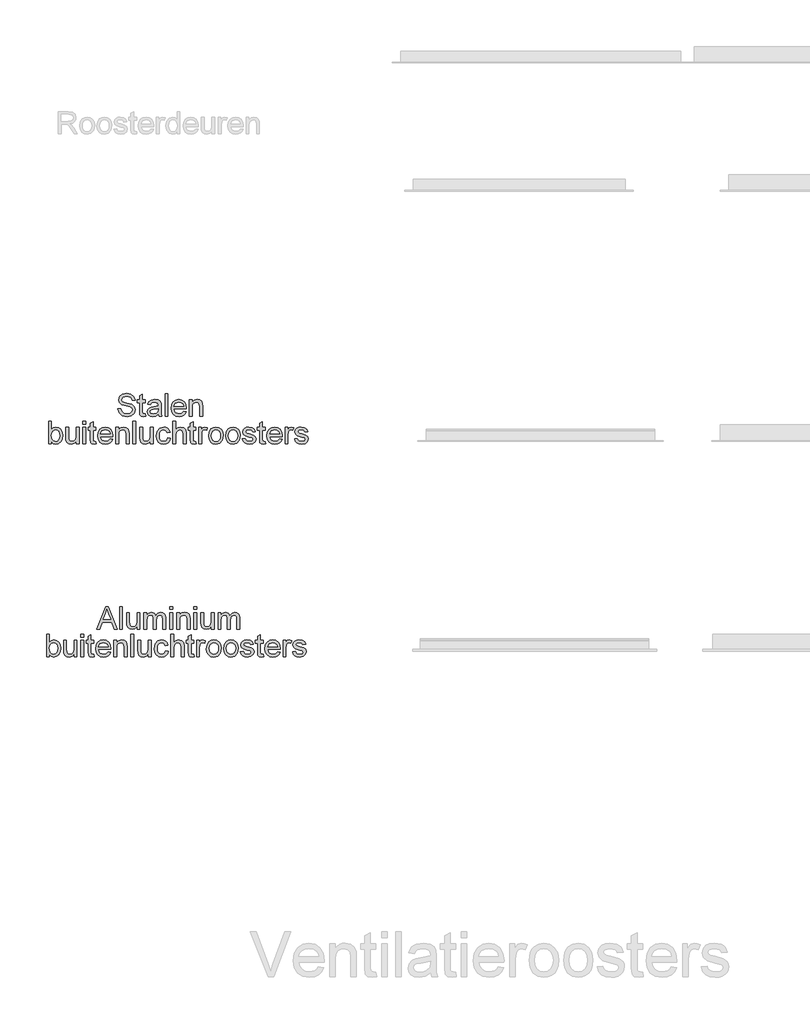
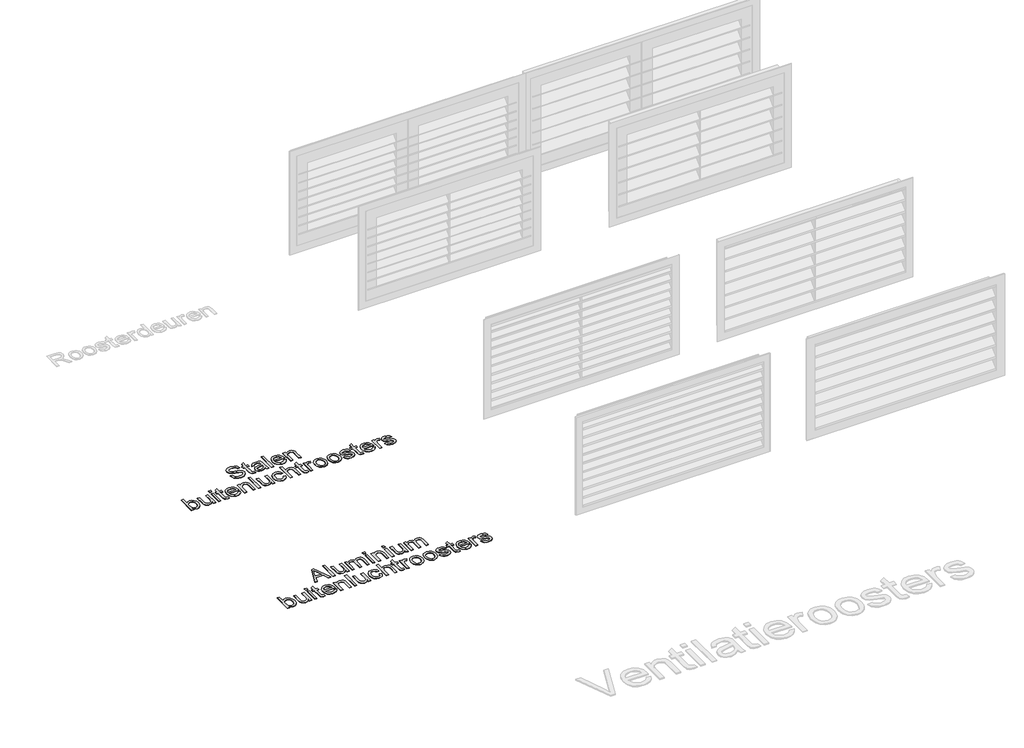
# One storey, part 2 of 10: 2 proxies.
"""IFC4 building model written with IfcOpenShell, lengths in millimetres."""

import ifcopenshell
import ifcopenshell.guid

model = None  # the IFC model being written
_history = None  # IfcOwnerHistory: only IFC2X3 demands one
_inside = {}  # id of a spatial element -> (the spatial element, [elements in it])
_under = {}  # id of a project, library or spatial element -> (it, [spatial elements below it])
_declared = {}  # id of a project -> (the project, [libraries it declares])
_typed = {}  # id of a type object -> (the type object, [elements of that type])
_made_of = {}  # id of a material, layer set ... -> (it, [elements and type objects made of it])


def new_model(schema):
    """Start an empty IFC model of exactly this schema.

    Asked for "IFC4X3", IfcOpenShell would pick the latest addendum, in which some entities
    have other attributes; the version numbers below select the first issue.
    IFC2X3 requires an IfcOwnerHistory on every rooted entity: one is made here for all.
    """
    global model, _history
    if schema == "IFC4X3":
        model = ifcopenshell.file(schema_version=(4, 3, 0, 0))
    else:
        model = ifcopenshell.file(schema=schema)
    _inside.clear()
    _under.clear()
    _declared.clear()
    _typed.clear()
    _made_of.clear()
    _history = None
    if model.schema == "IFC2X3":
        org = make("IfcOrganization", Name="unknown")
        user = make(
            "IfcPersonAndOrganization",
            ThePerson=make("IfcPerson", FamilyName="unknown"),
            TheOrganization=org,
        )
        app = make(
            "IfcApplication",
            ApplicationDeveloper=org,
            Version="unknown",
            ApplicationFullName="unknown",
            ApplicationIdentifier="unknown",
        )
        _history = make(
            "IfcOwnerHistory",
            OwningUser=user,
            OwningApplication=app,
            ChangeAction="ADDED",
            CreationDate=0,
        )
    return model


def make(cls, **values):
    """One entity of the class cls with the attributes given. An attribute that is None is left unset."""
    return model.create_entity(
        cls, **{name: value for name, value in values.items() if value is not None}
    )


def rooted(cls, **values):
    """An entity with a GlobalId (a new one), such as an element, a storey or a relation."""
    return make(cls, GlobalId=ifcopenshell.guid.new(), OwnerHistory=_history, **values)


def si_unit(unit_type, name, prefix=None):
    """IfcSIUnit, for example si_unit("LENGTHUNIT", "METRE", prefix="MILLI")."""
    return make("IfcSIUnit", UnitType=unit_type, Prefix=prefix, Name=name)


def assignment(units):
    """IfcUnitAssignment: the units of a project."""
    return None if units is None else make("IfcUnitAssignment", Units=units)


def point(xyz):
    """IfcCartesianPoint."""
    return None if xyz is None else make("IfcCartesianPoint", Coordinates=xyz)


def direction(xyz):
    """IfcDirection."""
    return None if xyz is None else make("IfcDirection", DirectionRatios=xyz)


def frame(location, z_axis=None, x_axis=None):
    """IfcAxis2Placement3D, a coordinate frame: its origin and axes. An axis left out is left unset."""
    return make(
        "IfcAxis2Placement3D",
        Location=point(location),
        Axis=direction(z_axis),
        RefDirection=direction(x_axis),
    )


def origin():
    """The frame at (0, 0, 0) with its axes left unset."""
    return frame((0.0, 0.0, 0.0))


def origin_with_axes():
    """The frame at (0, 0, 0) with the z axis (0, 0, 1) and the x axis (1, 0, 0) written out."""
    return frame((0.0, 0.0, 0.0), z_axis=(0.0, 0.0, 1.0), x_axis=(1.0, 0.0, 0.0))


def place(relative_to, where):
    """IfcLocalPlacement: puts the frame where relative to a parent placement (None: the world)."""
    return make(
        "IfcLocalPlacement", PlacementRelTo=relative_to, RelativePlacement=where
    )


def context(
    kind, dimensions, precision=None, world=None, true_north=None, identifier=None
):
    """IfcGeometricRepresentationContext, for example the 3D "Model" context."""
    return make(
        "IfcGeometricRepresentationContext",
        ContextIdentifier=identifier,
        ContextType=kind,
        CoordinateSpaceDimension=dimensions,
        Precision=precision,
        WorldCoordinateSystem=world,
        TrueNorth=true_north,
    )


def project(units=None, contexts=None):
    """IfcProject with its units and contexts."""
    return rooted(
        "IfcProject",
        Name="project",
        RepresentationContexts=contexts,
        UnitsInContext=assignment(units),
    )


def spatial(cls, under=None, at=None, **own):
    """A site, building, storey or space (cls), placed at a placement, below another one or the project."""
    s = rooted(cls, ObjectPlacement=at, **own)
    if under is not None:
        _under.setdefault(under.id(), (under, []))[1].append(s)
    return s


def polyline(points):
    """IfcPolyline through the points."""
    return make("IfcPolyline", Points=[point(p) for p in points])


def outline(outer, holes=None, kind="AREA"):
    """IfcArbitraryClosedProfileDef: a profile drawn as a closed curve; with holes, ...WithVoids."""
    if holes is None:
        return make("IfcArbitraryClosedProfileDef", ProfileType=kind, OuterCurve=outer)
    return make(
        "IfcArbitraryProfileDefWithVoids",
        ProfileType=kind,
        OuterCurve=outer,
        InnerCurves=holes,
    )


def extrude(swept, where, along, depth):
    """IfcExtrudedAreaSolid: the profile swept, set in the frame where, extruded along a direction by depth."""
    return make(
        "IfcExtrudedAreaSolid",
        SweptArea=swept,
        Position=where,
        ExtrudedDirection=direction(along),
        Depth=depth,
    )


def shape(context_of_items, identifier, shape_type, items):
    """IfcShapeRepresentation: the items that make up one representation, for example the "Body"."""
    return make(
        "IfcShapeRepresentation",
        ContextOfItems=context_of_items,
        RepresentationIdentifier=identifier,
        RepresentationType=shape_type,
        Items=items,
    )


def made_of(thing, what):
    """Note that an element or type object is made of a material, layer set ...; save() writes the relation."""
    if what is not None:
        _made_of.setdefault(what.id(), (what, []))[1].append(thing)
    return thing


def element(
    cls,
    number,
    at=None,
    inside=None,
    cuts=None,
    type_object=None,
    material=None,
    context=None,
    identifier="Body",
    shape_type=None,
    held_by="IfcProductDefinitionShape",
    body=None,
    shapes=None,
    **own,
):
    """One element of the class cls, such as IfcWall. Its Tag is "e" and its number.

    at: its placement. inside: the storey or other place that contains it. cuts: it is an
    opening in that element (IfcRelVoidsElement). A single representation is given by context,
    identifier, shape_type and body (its items); several are given by shapes. held_by: the class
    of the entity that holds the representations. save() writes the other relations.
    """
    e = rooted(cls, Tag="e%d" % number, ObjectPlacement=at, **own)
    if body is not None:
        shapes = [shape(context, identifier, shape_type, body)]
    if shapes is not None:
        e.Representation = make(held_by, Representations=shapes)
    if inside is not None:
        _inside.setdefault(inside.id(), (inside, []))[1].append(e)
    if cuts is not None:
        rooted(
            "IfcRelVoidsElement", RelatingBuildingElement=cuts, RelatedOpeningElement=e
        )
    if type_object is not None:
        _typed.setdefault(type_object.id(), (type_object, []))[1].append(e)
    return made_of(e, material)


def aggregate(whole, parts):
    """IfcRelAggregates: a whole, such as a stair, and the parts it consists of."""
    return rooted("IfcRelAggregates", RelatingObject=whole, RelatedObjects=parts)


def save(model, path):
    """Write the relations noted so far, then the file.

    IfcRelAggregates (storeys below a building ...), IfcRelContainedInSpatialStructure (elements
    in a storey), IfcRelDefinesByType, IfcRelAssociatesMaterial and IfcRelDeclares: one each for
    every whole, place, type object, material and project.
    """
    for whole, parts in _under.values():
        aggregate(whole, parts)
    for where, things in _inside.values():
        rooted(
            "IfcRelContainedInSpatialStructure",
            RelatedElements=things,
            RelatingStructure=where,
        )
    for kind, things in _typed.values():
        rooted("IfcRelDefinesByType", RelatedObjects=things, RelatingType=kind)
    for what, things in _made_of.values():
        rooted("IfcRelAssociatesMaterial", RelatedObjects=things, RelatingMaterial=what)
    for by, libraries in _declared.values():
        rooted("IfcRelDeclares", RelatingContext=by, RelatedDefinitions=libraries)
    model.write(path)


model = new_model("IFC4")

# Units and contexts
model_context = context("Model", 3, world=origin())
ifc_project = project(units=[si_unit("LENGTHUNIT", "METRE", prefix="MILLI")], contexts=[model_context])

# Site, building, storey
site = spatial("IfcSite", under=ifc_project)
building = spatial("IfcBuilding", under=site)
storey = spatial("IfcBuildingStorey", under=building, Name="Ventilatieroosters", Elevation=0.0)

# Proxies
placement = place(None, origin())
element("IfcBuildingElementProxy", 1, Name="100mm", ObjectType="100mm", at=placement, inside=storey, context=model_context, shape_type="SweptSolid", body=[
    extrude(outline(polyline([(-4726.409351, -14949.7732962), (-4687.1064664, -14851.3117578), (-4676.6256972, -14851.3117578), (-4637.3228126, -14949.7732962), (-4650.3276203, -14949.7732962), (-4661.6016587, -14919.0040655), (-4702.1545433, -14919.0040655), (-4713.4045433, -14949.7732962), (-4726.409351, -14949.7732962)]), holes=[polyline([(-4697.6353126, -14906.6963732), (-4666.096851, -14906.6963732), (-4674.9670433, -14882.4896424), (-4681.8660818, -14863.6194501), (-4687.9958895, -14880.3742578), (-4697.6353126, -14906.6963732)])]), origin_with_axes(), (0.0, 0.0, 1.0), 2.0),
    extrude(outline(polyline([(-4625.7122357, -14949.7732962), (-4625.7122357, -14851.3117578), (-4613.4045433, -14851.3117578), (-4613.4045433, -14949.7732962), (-4625.7122357, -14949.7732962)])), origin_with_axes(), (0.0, 0.0, 1.0), 2.0),
    extrude(outline(polyline([(-4548.7891587, -14949.7732962), (-4548.7891587, -14937.3454116), (-4558.4285818, -14947.8201712), (-4571.0006972, -14951.3117578), (-4582.5752164, -14948.8598347), (-4590.5559857, -14942.7059885), (-4594.221851, -14933.6434885), (-4594.9430049, -14922.2011808), (-4594.9430049, -14877.4656039), (-4582.6353126, -14877.4656039), (-4582.6353126, -14916.4079116), (-4581.8901203, -14928.9559885), (-4577.0223318, -14936.323777), (-4567.8516587, -14939.0040655), (-4557.5752164, -14936.2636808), (-4550.784351, -14928.7997385), (-4548.7891587, -14915.0857962), (-4548.7891587, -14877.4656039), (-4536.4814664, -14877.4656039), (-4536.4814664, -14949.7732962), (-4548.7891587, -14949.7732962)])), origin_with_axes(), (0.0, 0.0, 1.0), 2.0),
    extrude(outline(polyline([(-4519.5583895, -14949.7732962), (-4519.5583895, -14877.4656039), (-4507.2506972, -14877.4656039), (-4507.2506972, -14889.3646424), (-4498.7891587, -14879.6170462), (-4486.7458895, -14875.9271424), (-4474.4141587, -14879.6891616), (-4467.6353126, -14890.230027), (-4458.0319472, -14879.5028635), (-4445.9045433, -14875.9271424), (-4436.6527405, -14877.4145222), (-4429.8107933, -14881.8766616), (-4425.5830289, -14889.433753), (-4424.1737741, -14900.2059885), (-4424.1737741, -14949.7732962), (-4436.4814664, -14949.7732962), (-4436.4814664, -14905.4944501), (-4437.6232933, -14895.2180078), (-4441.7579087, -14890.1579116), (-4448.7891587, -14888.2348347), (-4460.8925241, -14893.1627193), (-4465.7122357, -14908.9559885), (-4465.7122357, -14949.7732962), (-4478.019928, -14949.7732962), (-4478.019928, -14904.1242578), (-4480.8684857, -14892.2011808), (-4490.207428, -14888.2348347), (-4499.3180049, -14890.8790655), (-4505.3756972, -14898.6194501), (-4507.2506972, -14913.3069501), (-4507.2506972, -14949.7732962), (-4519.5583895, -14949.7732962)])), origin_with_axes(), (0.0, 0.0, 1.0), 2.0),
    extrude(outline(polyline([(-4405.7122357, -14949.7732962), (-4405.7122357, -14877.4656039), (-4393.4045433, -14877.4656039), (-4393.4045433, -14949.7732962), (-4405.7122357, -14949.7732962)])), origin_with_axes(), (0.0, 0.0, 1.0), 2.0),
    extrude(outline(polyline([(-4405.7122357, -14863.6194501), (-4405.7122357, -14851.3117578), (-4393.4045433, -14851.3117578), (-4393.4045433, -14863.6194501), (-4405.7122357, -14863.6194501)])), origin_with_axes(), (0.0, 0.0, 1.0), 2.0),
    extrude(outline(polyline([(-4374.9430049, -14949.7732962), (-4374.9430049, -14877.4656039), (-4362.6353126, -14877.4656039), (-4362.6353126, -14887.5617578), (-4353.2242549, -14878.8357962), (-4340.3756972, -14875.9271424), (-4328.753101, -14878.2708924), (-4320.8204087, -14884.4247385), (-4317.1305049, -14893.4752193), (-4316.4814664, -14905.3742578), (-4316.4814664, -14949.7732962), (-4328.7891587, -14949.7732962), (-4328.7891587, -14907.0329116), (-4330.207428, -14896.1434885), (-4335.2194472, -14890.386277), (-4343.6689664, -14888.2348347), (-4357.0223318, -14893.0665655), (-4361.2320674, -14900.0677674), (-4362.6353126, -14911.4079116), (-4362.6353126, -14949.7732962), (-4374.9430049, -14949.7732962)])), origin_with_axes(), (0.0, 0.0, 1.0), 2.0),
    extrude(outline(polyline([(-4299.5583895, -14949.7732962), (-4299.5583895, -14877.4656039), (-4287.2506972, -14877.4656039), (-4287.2506972, -14949.7732962), (-4299.5583895, -14949.7732962)])), origin_with_axes(), (0.0, 0.0, 1.0), 2.0),
    extrude(outline(polyline([(-4299.5583895, -14863.6194501), (-4299.5583895, -14851.3117578), (-4287.2506972, -14851.3117578), (-4287.2506972, -14863.6194501), (-4299.5583895, -14863.6194501)])), origin_with_axes(), (0.0, 0.0, 1.0), 2.0),
    extrude(outline(polyline([(-4222.6353126, -14949.7732962), (-4222.6353126, -14937.3454116), (-4232.2747357, -14947.8201712), (-4244.846851, -14951.3117578), (-4256.4213703, -14948.8598347), (-4264.4021395, -14942.7059885), (-4268.0680049, -14933.6434885), (-4268.7891587, -14922.2011808), (-4268.7891587, -14877.4656039), (-4256.4814664, -14877.4656039), (-4256.4814664, -14916.4079116), (-4255.7362741, -14928.9559885), (-4250.8684857, -14936.323777), (-4241.6978126, -14939.0040655), (-4231.4213703, -14936.2636808), (-4224.6305049, -14928.7997385), (-4222.6353126, -14915.0857962), (-4222.6353126, -14877.4656039), (-4210.3276203, -14877.4656039), (-4210.3276203, -14949.7732962), (-4222.6353126, -14949.7732962)])), origin_with_axes(), (0.0, 0.0, 1.0), 2.0),
    extrude(outline(polyline([(-4193.4045433, -14949.7732962), (-4193.4045433, -14877.4656039), (-4181.096851, -14877.4656039), (-4181.096851, -14889.3646424), (-4172.6353126, -14879.6170462), (-4160.5920433, -14875.9271424), (-4148.2603126, -14879.6891616), (-4141.4814664, -14890.230027), (-4131.878101, -14879.5028635), (-4119.7506972, -14875.9271424), (-4110.4988943, -14877.4145222), (-4103.6569472, -14881.8766616), (-4099.4291828, -14889.433753), (-4098.019928, -14900.2059885), (-4098.019928, -14949.7732962), (-4110.3276203, -14949.7732962), (-4110.3276203, -14905.4944501), (-4111.4694472, -14895.2180078), (-4115.6040626, -14890.1579116), (-4122.6353126, -14888.2348347), (-4134.738678, -14893.1627193), (-4139.5583895, -14908.9559885), (-4139.5583895, -14949.7732962), (-4151.8660818, -14949.7732962), (-4151.8660818, -14904.1242578), (-4154.7146395, -14892.2011808), (-4164.0535818, -14888.2348347), (-4173.1641587, -14890.8790655), (-4179.221851, -14898.6194501), (-4181.096851, -14913.3069501), (-4181.096851, -14949.7732962), (-4193.4045433, -14949.7732962)])), origin_with_axes(), (0.0, 0.0, 1.0), 2.0),
    extrude(outline(polyline([(-4934.9430049, -15071.3117578), (-4947.2506972, -15071.3117578), (-4947.2506972, -14972.8502193), (-4934.9430049, -14972.8502193), (-4934.9430049, -15009.3646424), (-4926.3252164, -15000.4403635), (-4915.6160818, -14997.4656039), (-4903.284351, -15000.1458924), (-4893.7170433, -15007.6819501), (-4887.8396395, -15019.4007001), (-4885.7122357, -15034.0761808), (-4887.9147597, -15050.5064693), (-4894.5223318, -15062.730027), (-4904.2188462, -15070.3201712), (-4915.6881972, -15072.8502193), (-4926.6317068, -15069.5869982), (-4934.9430049, -15059.7973347), (-4934.9430049, -15071.3117578)]), holes=[polyline([(-4934.9430049, -15034.6531039), (-4931.5776203, -15051.8646424), (-4925.129303, -15058.3730558), (-4916.7458895, -15060.542527), (-4909.6425241, -15058.9439693), (-4903.5728126, -15054.1482962), (-4899.4081491, -15046.1855558), (-4898.019928, -15035.0857962), (-4899.3510578, -15023.823777), (-4903.3444472, -15015.9511808), (-4909.2248558, -15011.3177674), (-4916.2170433, -15009.7732962), (-4923.3204087, -15011.3718539), (-4929.3901203, -15016.167527), (-4933.5547837, -15023.9860366), (-4934.9430049, -15034.6531039)])]), origin_with_axes(), (0.0, 0.0, 1.0), 2.0),
    extrude(outline(polyline([(-4825.7122357, -15071.3117578), (-4825.7122357, -15058.8838732), (-4835.3516587, -15069.3586328), (-4847.9237741, -15072.8502193), (-4859.4982933, -15070.3982962), (-4867.4790626, -15064.2444501), (-4871.144928, -15055.1819501), (-4871.8660818, -15043.7396424), (-4871.8660818, -14999.0040655), (-4859.5583895, -14999.0040655), (-4859.5583895, -15037.9463732), (-4858.8131972, -15050.4944501), (-4853.9454087, -15057.8622385), (-4844.7747357, -15060.542527), (-4834.4982933, -15057.8021424), (-4827.707428, -15050.3382001), (-4825.7122357, -15036.6242578), (-4825.7122357, -14999.0040655), (-4813.4045433, -14999.0040655), (-4813.4045433, -15071.3117578), (-4825.7122357, -15071.3117578)])), origin_with_axes(), (0.0, 0.0, 1.0), 2.0),
    extrude(outline(polyline([(-4796.4814664, -15071.3117578), (-4796.4814664, -14999.0040655), (-4784.1737741, -14999.0040655), (-4784.1737741, -15071.3117578), (-4796.4814664, -15071.3117578)])), origin_with_axes(), (0.0, 0.0, 1.0), 2.0),
    extrude(outline(polyline([(-4796.4814664, -14985.1579116), (-4796.4814664, -14972.8502193), (-4784.1737741, -14972.8502193), (-4784.1737741, -14985.1579116), (-4796.4814664, -14985.1579116)])), origin_with_axes(), (0.0, 0.0, 1.0), 2.0),
    extrude(outline(polyline([(-4739.5583895, -15061.0473347), (-4738.019928, -15071.6723347), (-4747.2266587, -15072.8502193), (-4757.5391587, -15070.8069501), (-4762.6833895, -15065.4463732), (-4764.1737741, -15051.480027), (-4764.1737741, -15011.3117578), (-4773.4045433, -15011.3117578), (-4773.4045433, -14999.0040655), (-4764.1737741, -14999.0040655), (-4764.1737741, -14981.4319501), (-4751.8660818, -14974.1963732), (-4751.8660818, -14999.0040655), (-4739.5583895, -14999.0040655), (-4739.5583895, -15011.3117578), (-4751.8660818, -15011.3117578), (-4751.8660818, -15051.1194501), (-4751.2170433, -15057.4656039), (-4749.113678, -15059.7132001), (-4744.9189664, -15060.542527), (-4739.5583895, -15061.0473347)])), origin_with_axes(), (0.0, 0.0, 1.0), 2.0),
    extrude(outline(polyline([(-4676.6256972, -15049.7732962), (-4664.5583895, -15051.3117578), (-4668.9063462, -15060.4043058), (-4675.8444472, -15067.2011808), (-4685.2164424, -15071.4379597), (-4696.8660818, -15072.8502193), (-4711.3071876, -15070.4133203), (-4722.4189664, -15063.1026232), (-4729.504303, -15051.3928876), (-4731.8660818, -15035.7588732), (-4729.4802645, -15019.5990174), (-4722.3228126, -15007.5136808), (-4711.3612741, -14999.9776232), (-4697.5631972, -14997.4656039), (-4684.1948078, -14999.9716135), (-4673.5127164, -15007.4896424), (-4666.5085097, -15019.5509405), (-4664.1737741, -15035.6867578), (-4664.2458895, -15039.0040655), (-4719.5583895, -15039.0040655), (-4717.4279808, -15048.2168058), (-4712.4790626, -15054.9896424), (-4696.6256972, -15060.542527), (-4684.5583895, -15057.9704116), (-4676.6256972, -15049.7732962)]), holes=[polyline([(-4719.5583895, -15026.6963732), (-4676.4814664, -15026.6963732), (-4681.409351, -15015.542527), (-4688.5848318, -15011.2156039), (-4697.6112741, -15009.7732962), (-4712.7675241, -15014.3766616), (-4719.5583895, -15026.6963732)])]), origin_with_axes(), (0.0, 0.0, 1.0), 2.0),
    extrude(outline(polyline([(-4651.8660818, -15071.3117578), (-4651.8660818, -14999.0040655), (-4639.5583895, -14999.0040655), (-4639.5583895, -15009.1002193), (-4630.1473318, -15000.3742578), (-4617.2987741, -14997.4656039), (-4605.676178, -14999.8093539), (-4597.7434857, -15005.9632001), (-4594.0535818, -15015.0136808), (-4593.4045433, -15026.9127193), (-4593.4045433, -15071.3117578), (-4605.7122357, -15071.3117578), (-4605.7122357, -15028.5713732), (-4607.1305049, -15017.6819501), (-4612.1425241, -15011.9247385), (-4620.5920433, -15009.7732962), (-4633.9454087, -15014.605027), (-4638.1551443, -15021.6062289), (-4639.5583895, -15032.9463732), (-4639.5583895, -15071.3117578), (-4651.8660818, -15071.3117578)])), origin_with_axes(), (0.0, 0.0, 1.0), 2.0),
    extrude(outline(polyline([(-4576.4814664, -15071.3117578), (-4576.4814664, -14972.8502193), (-4564.1737741, -14972.8502193), (-4564.1737741, -15071.3117578), (-4576.4814664, -15071.3117578)])), origin_with_axes(), (0.0, 0.0, 1.0), 2.0),
    extrude(outline(polyline([(-4499.5583895, -15071.3117578), (-4499.5583895, -15058.8838732), (-4509.1978126, -15069.3586328), (-4521.769928, -15072.8502193), (-4533.3444472, -15070.3982962), (-4541.3252164, -15064.2444501), (-4544.9910818, -15055.1819501), (-4545.7122357, -15043.7396424), (-4545.7122357, -14999.0040655), (-4533.4045433, -14999.0040655), (-4533.4045433, -15037.9463732), (-4532.659351, -15050.4944501), (-4527.7915626, -15057.8622385), (-4518.6208895, -15060.542527), (-4508.3444472, -15057.8021424), (-4501.5535818, -15050.3382001), (-4499.5583895, -15036.6242578), (-4499.5583895, -14999.0040655), (-4487.2506972, -14999.0040655), (-4487.2506972, -15071.3117578), (-4499.5583895, -15071.3117578)])), origin_with_axes(), (0.0, 0.0, 1.0), 2.0),
    extrude(outline(polyline([(-4424.1737741, -15045.1579116), (-4411.8660818, -15046.6963732), (-4415.2975722, -15057.6428876), (-4421.7458895, -15065.9151232), (-4430.6040626, -15071.1164453), (-4441.2651203, -15072.8502193), (-4454.3570674, -15070.4313491), (-4464.5944472, -15063.1747385), (-4471.2020193, -15051.3988972), (-4473.4045433, -15035.4223347), (-4469.6425241, -15014.9776232), (-4458.176178, -15001.8406039), (-4441.4333895, -14997.4656039), (-4431.0337501, -14998.9680078), (-4422.7194472, -15003.4752193), (-4416.7549039, -15010.7468539), (-4413.4045433, -15020.542527), (-4425.7122357, -15022.0809885), (-4431.4213703, -15012.8622385), (-4441.3372357, -15009.7732962), (-4449.2909616, -15011.2937289), (-4455.6040626, -15015.855027), (-4459.7236539, -15023.7035847), (-4461.096851, -15035.0857962), (-4459.753702, -15046.621253), (-4455.7242549, -15054.4968539), (-4449.5253366, -15059.0311087), (-4441.6737741, -15060.542527), (-4430.0752164, -15056.7684885), (-4424.1737741, -15045.1579116)])), origin_with_axes(), (0.0, 0.0, 1.0), 2.0),
    extrude(outline(polyline([(-4401.096851, -15071.3117578), (-4401.096851, -14972.8502193), (-4388.7891587, -14972.8502193), (-4388.7891587, -15009.0521424), (-4379.191803, -15000.3622385), (-4367.3708895, -14997.4656039), (-4353.5487741, -15000.6266616), (-4345.159351, -15009.3646424), (-4342.6353126, -15025.542527), (-4342.6353126, -15071.3117578), (-4354.9430049, -15071.3117578), (-4354.9430049, -15026.8165655), (-4358.8612741, -15013.8357962), (-4369.9670433, -15009.7732962), (-4380.051178, -15012.5136808), (-4386.7819472, -15019.9415655), (-4388.7891587, -15032.8982962), (-4388.7891587, -15071.3117578), (-4401.096851, -15071.3117578)])), origin_with_axes(), (0.0, 0.0, 1.0), 2.0),
    extrude(outline(polyline([(-4299.5583895, -15061.0473347), (-4298.019928, -15071.6723347), (-4307.2266587, -15072.8502193), (-4317.5391587, -15070.8069501), (-4322.6833895, -15065.4463732), (-4324.1737741, -15051.480027), (-4324.1737741, -15011.3117578), (-4333.4045433, -15011.3117578), (-4333.4045433, -14999.0040655), (-4324.1737741, -14999.0040655), (-4324.1737741, -14981.4319501), (-4311.8660818, -14974.1963732), (-4311.8660818, -14999.0040655), (-4299.5583895, -14999.0040655), (-4299.5583895, -15011.3117578), (-4311.8660818, -15011.3117578), (-4311.8660818, -15051.1194501), (-4311.2170433, -15057.4656039), (-4309.113678, -15059.7132001), (-4304.9189664, -15060.542527), (-4299.5583895, -15061.0473347)])), origin_with_axes(), (0.0, 0.0, 1.0), 2.0),
    extrude(outline(polyline([(-4287.2506972, -15071.3117578), (-4287.2506972, -14999.0040655), (-4276.4814664, -14999.0040655), (-4276.4814664, -15009.7011808), (-4268.8372357, -14999.8454116), (-4261.144928, -14997.4656039), (-4248.7891587, -15001.2636808), (-4252.8997357, -15012.2973347), (-4261.5535818, -15009.7732962), (-4268.5127164, -15012.2011808), (-4272.9478126, -15018.9319501), (-4274.9430049, -15033.3069501), (-4274.9430049, -15071.3117578), (-4287.2506972, -15071.3117578)])), origin_with_axes(), (0.0, 0.0, 1.0), 2.0),
    extrude(outline(polyline([(-4244.1737741, -15035.1579116), (-4241.5115145, -15017.7240174), (-4233.5247357, -15005.4704116), (-4223.6569472, -14999.4668058), (-4211.8420433, -14997.4656039), (-4198.9123558, -14999.902503), (-4188.5848318, -15007.2132001), (-4181.8150001, -15018.8207722), (-4179.5583895, -15034.1482962), (-4183.5487741, -15056.0473347), (-4195.1713703, -15068.4391616), (-4211.8420433, -15072.8502193), (-4224.9279808, -15070.4223347), (-4235.2434857, -15063.1386808), (-4241.941202, -15051.2877193), (-4244.1737741, -15035.1579116)]), holes=[polyline([(-4231.8660818, -15035.1338732), (-4230.441803, -15046.2726953), (-4226.1689664, -15054.2083924), (-4219.738678, -15058.9589933), (-4211.8420433, -15060.542527), (-4203.9814664, -15058.9499789), (-4197.5631972, -15054.1723347), (-4193.2903607, -15046.1314693), (-4191.8660818, -15034.7492578), (-4193.2993751, -15023.9349549), (-4197.5992549, -15016.1074308), (-4204.0265385, -15011.3568299), (-4211.8420433, -15009.7732962), (-4219.738678, -15011.3508203), (-4226.1689664, -15016.0833924), (-4230.441803, -15024.0010607), (-4231.8660818, -15035.1338732)])]), origin_with_axes(), (0.0, 0.0, 1.0), 2.0),
    extrude(outline(polyline([(-4168.7891587, -15035.1579116), (-4166.1268991, -15017.7240174), (-4158.1401203, -15005.4704116), (-4148.2723318, -14999.4668058), (-4136.457428, -14997.4656039), (-4123.5277405, -14999.902503), (-4113.2002164, -15007.2132001), (-4106.4303847, -15018.8207722), (-4104.1737741, -15034.1482962), (-4108.1641587, -15056.0473347), (-4119.7867549, -15068.4391616), (-4136.457428, -15072.8502193), (-4149.5433655, -15070.4223347), (-4159.8588703, -15063.1386808), (-4166.5565866, -15051.2877193), (-4168.7891587, -15035.1579116)]), holes=[polyline([(-4156.4814664, -15035.1338732), (-4155.0571876, -15046.2726953), (-4150.784351, -15054.2083924), (-4144.3540626, -15058.9589933), (-4136.457428, -15060.542527), (-4128.596851, -15058.9499789), (-4122.1785818, -15054.1723347), (-4117.9057453, -15046.1314693), (-4116.4814664, -15034.7492578), (-4117.9147597, -15023.9349549), (-4122.2146395, -15016.1074308), (-4128.6419232, -15011.3568299), (-4136.457428, -15009.7732962), (-4144.3540626, -15011.3508203), (-4150.784351, -15016.0833924), (-4155.0571876, -15024.0010607), (-4156.4814664, -15035.1338732)])]), origin_with_axes(), (0.0, 0.0, 1.0), 2.0),
    extrude(outline(polyline([(-4094.9430049, -15049.7732962), (-4082.6353126, -15048.2348347), (-4076.9381972, -15057.3694501), (-4063.8853126, -15060.542527), (-4051.3372357, -15057.6338732), (-4047.2506972, -15050.8069501), (-4051.3612741, -15045.2781039), (-4064.0295433, -15041.7684885), (-4082.5631972, -15035.7468539), (-4090.6521395, -15028.7156039), (-4093.4045433, -15018.7877193), (-4091.1930049, -15009.6170462), (-4085.159351, -15002.6098347), (-4077.3348318, -14998.9680078), (-4066.7458895, -14997.4656039), (-4051.769928, -14999.8814693), (-4042.2506972, -15006.4199308), (-4038.019928, -15017.4656039), (-4050.3276203, -15019.0040655), (-4054.9550241, -15012.2132001), (-4065.784351, -15009.7732962), (-4077.5631972, -15012.105027), (-4081.096851, -15017.5377193), (-4079.6305049, -15021.1194501), (-4075.0391587, -15023.8357962), (-4064.4381972, -15026.4559885), (-4046.3732933, -15032.2492578), (-4037.9838703, -15038.8117578), (-4034.9430049, -15049.5088732), (-4038.5127164, -15061.2877193), (-4048.8131972, -15069.8333924), (-4064.0535818, -15072.8502193), (-4076.4634376, -15071.3958924), (-4085.519928, -15067.0329116), (-4091.565601, -15059.8093539), (-4094.9430049, -15049.7732962)])), origin_with_axes(), (0.0, 0.0, 1.0), 2.0),
    extrude(outline(polyline([(-3994.9430049, -15061.0473347), (-3993.4045433, -15071.6723347), (-4002.6112741, -15072.8502193), (-4012.9237741, -15070.8069501), (-4018.0680049, -15065.4463732), (-4019.5583895, -15051.480027), (-4019.5583895, -15011.3117578), (-4028.7891587, -15011.3117578), (-4028.7891587, -14999.0040655), (-4019.5583895, -14999.0040655), (-4019.5583895, -14981.4319501), (-4007.2506972, -14974.1963732), (-4007.2506972, -14999.0040655), (-3994.9430049, -14999.0040655), (-3994.9430049, -15011.3117578), (-4007.2506972, -15011.3117578), (-4007.2506972, -15051.1194501), (-4006.6016587, -15057.4656039), (-4004.4982933, -15059.7132001), (-4000.3035818, -15060.542527), (-3994.9430049, -15061.0473347)])), origin_with_axes(), (0.0, 0.0, 1.0), 2.0),
    extrude(outline(polyline([(-3932.0103126, -15049.7732962), (-3919.9430049, -15051.3117578), (-3924.2909616, -15060.4043058), (-3931.2290626, -15067.2011808), (-3940.6010578, -15071.4379597), (-3952.2506972, -15072.8502193), (-3966.691803, -15070.4133203), (-3977.8035818, -15063.1026232), (-3984.8889183, -15051.3928876), (-3987.2506972, -15035.7588732), (-3984.8648799, -15019.5990174), (-3977.707428, -15007.5136808), (-3966.7458895, -14999.9776232), (-3952.9478126, -14997.4656039), (-3939.5794232, -14999.9716135), (-3928.8973318, -15007.4896424), (-3921.8931251, -15019.5509405), (-3919.5583895, -15035.6867578), (-3919.6305049, -15039.0040655), (-3974.9430049, -15039.0040655), (-3972.8125962, -15048.2168058), (-3967.863678, -15054.9896424), (-3952.0103126, -15060.542527), (-3939.9430049, -15057.9704116), (-3932.0103126, -15049.7732962)]), holes=[polyline([(-3974.9430049, -15026.6963732), (-3931.8660818, -15026.6963732), (-3936.7939664, -15015.542527), (-3943.9694472, -15011.2156039), (-3952.9958895, -15009.7732962), (-3968.1521395, -15014.3766616), (-3974.9430049, -15026.6963732)])]), origin_with_axes(), (0.0, 0.0, 1.0), 2.0),
    extrude(outline(polyline([(-3907.2506972, -15071.3117578), (-3907.2506972, -14999.0040655), (-3896.4814664, -14999.0040655), (-3896.4814664, -15009.7011808), (-3888.8372357, -14999.8454116), (-3881.144928, -14997.4656039), (-3868.7891587, -15001.2636808), (-3872.8997357, -15012.2973347), (-3881.5535818, -15009.7732962), (-3888.5127164, -15012.2011808), (-3892.9478126, -15018.9319501), (-3894.9430049, -15033.3069501), (-3894.9430049, -15071.3117578), (-3907.2506972, -15071.3117578)])), origin_with_axes(), (0.0, 0.0, 1.0), 2.0),
    extrude(outline(polyline([(-3865.7122357, -15049.7732962), (-3853.4045433, -15048.2348347), (-3847.707428, -15057.3694501), (-3834.6545433, -15060.542527), (-3822.1064664, -15057.6338732), (-3818.019928, -15050.8069501), (-3822.1305049, -15045.2781039), (-3834.7987741, -15041.7684885), (-3853.332428, -15035.7468539), (-3861.4213703, -15028.7156039), (-3864.1737741, -15018.7877193), (-3861.9622357, -15009.6170462), (-3855.9285818, -15002.6098347), (-3848.1040626, -14998.9680078), (-3837.5151203, -14997.4656039), (-3822.5391587, -14999.8814693), (-3813.019928, -15006.4199308), (-3808.7891587, -15017.4656039), (-3821.096851, -15019.0040655), (-3825.7242549, -15012.2132001), (-3836.5535818, -15009.7732962), (-3848.332428, -15012.105027), (-3851.8660818, -15017.5377193), (-3850.3997357, -15021.1194501), (-3845.8083895, -15023.8357962), (-3835.207428, -15026.4559885), (-3817.1425241, -15032.2492578), (-3808.753101, -15038.8117578), (-3805.7122357, -15049.5088732), (-3809.2819472, -15061.2877193), (-3819.582428, -15069.8333924), (-3834.8228126, -15072.8502193), (-3847.2326683, -15071.3958924), (-3856.2891587, -15067.0329116), (-3862.3348318, -15059.8093539), (-3865.7122357, -15049.7732962)])), origin_with_axes(), (0.0, 0.0, 1.0), 2.0),
])
element("IfcBuildingElementProxy", 2, Name="100mm", ObjectType="100mm", at=placement, inside=storey, context=model_context, shape_type="SweptSolid", body=[
    extrude(outline(polyline([(-4633.7879103, -13980.3840411), (-4621.480218, -13980.3840411), (-4617.5138718, -13992.7037527), (-4607.8263718, -14000.4922142), (-4593.0667565, -14003.4609642), (-4580.2061795, -14001.2133681), (-4571.9008911, -13995.0354834), (-4569.1725257, -13986.7782719), (-4571.2157949, -13979.0979834), (-4579.5811795, -13973.5090411), (-4597.5018526, -13968.8095219), (-4616.792718, -13962.7398104), (-4627.261468, -13953.5811565), (-4630.7109872, -13941.3455796), (-4626.4441603, -13927.4152911), (-4613.980218, -13917.5835604), (-4595.7350257, -13914.230195), (-4576.2638718, -13917.7398104), (-4563.2831026, -13928.0523104), (-4558.4032949, -13943.4609642), (-4570.7109872, -13943.4609642), (-4577.6821411, -13930.8167334), (-4595.2542565, -13926.5378873), (-4612.8744488, -13930.7686565), (-4618.4032949, -13940.9850027), (-4614.4850257, -13949.5186565), (-4594.3888718, -13956.3936565), (-4572.6100257, -13962.5715411), (-4560.698968, -13972.5475027), (-4556.8648334, -13986.4657719), (-4561.2758911, -14001.1893296), (-4573.9681988, -14011.9345219), (-4592.5859872, -14015.7686565), (-4614.5691603, -14011.6340411), (-4628.4754103, -13999.1821181), (-4633.7879103, -13980.3840411)])), origin_with_axes(), (0.0, 0.0, 1.0), 2.0),
    extrude(outline(polyline([(-4513.7879103, -14003.9657719), (-4512.2494488, -14014.5907719), (-4521.4561795, -14015.7686565), (-4531.7686795, -14013.7253873), (-4536.9129103, -14008.3648104), (-4538.4032949, -13994.3984642), (-4538.4032949, -13954.230195), (-4547.6340641, -13954.230195), (-4547.6340641, -13941.9225027), (-4538.4032949, -13941.9225027), (-4538.4032949, -13924.3503873), (-4526.0956026, -13917.1148104), (-4526.0956026, -13941.9225027), (-4513.7879103, -13941.9225027), (-4513.7879103, -13954.230195), (-4526.0956026, -13954.230195), (-4526.0956026, -13994.0378873), (-4525.4465641, -14000.3840411), (-4523.3431988, -14002.6316373), (-4519.1484872, -14003.4609642), (-4513.7879103, -14003.9657719)])), origin_with_axes(), (0.0, 0.0, 1.0), 2.0),
    extrude(outline(polyline([(-4455.3263718, -14004.9994258), (-4467.261468, -14013.3407719), (-4480.4465641, -14015.7686565), (-4490.7320209, -14014.30832), (-4498.3191603, -14009.9273104), (-4502.9976459, -14003.2746661), (-4504.5571411, -13994.9994258), (-4502.2013718, -13985.2638488), (-4496.011468, -13978.1965411), (-4487.3936795, -13974.1580796), (-4476.7446411, -13972.3071181), (-4455.3984872, -13968.0763488), (-4455.3263718, -13965.3359642), (-4458.7157949, -13956.2494258), (-4472.3215641, -13952.6917334), (-4484.7734872, -13955.0595219), (-4490.7109872, -13963.4609642), (-4503.0186795, -13961.9225027), (-4497.6941603, -13949.9032719), (-4486.9730065, -13942.8600027), (-4470.7350257, -13940.3840411), (-4455.8191603, -13942.5715411), (-4447.3936795, -13948.0643296), (-4443.6196411, -13956.417695), (-4443.0186795, -13967.1869258), (-4443.0186795, -13982.4994258), (-4442.3936795, -14003.8816373), (-4439.9417565, -14014.230195), (-4452.2494488, -14014.230195), (-4455.3263718, -14004.9994258)]), holes=[polyline([(-4455.3263718, -13980.3840411), (-4475.1821411, -13984.1580796), (-4485.7710834, -13986.1532719), (-4490.5667565, -13989.3984642), (-4492.2494488, -13994.1340411), (-4488.5835834, -14000.792695), (-4477.8263718, -14003.4609642), (-4465.3744488, -14000.5162527), (-4457.3456026, -13993.3888488), (-4455.3984872, -13983.8696181), (-4455.3263718, -13980.3840411)])]), origin_with_axes(), (0.0, 0.0, 1.0), 2.0),
    extrude(outline(polyline([(-4426.0956026, -14014.230195), (-4426.0956026, -13915.7686565), (-4413.7879103, -13915.7686565), (-4413.7879103, -14014.230195), (-4426.0956026, -14014.230195)])), origin_with_axes(), (0.0, 0.0, 1.0), 2.0),
    extrude(outline(polyline([(-4344.7013718, -13992.6917334), (-4332.6340641, -13994.230195), (-4336.9820209, -14003.3227431), (-4343.9201218, -14010.1196181), (-4353.292117, -14014.3563969), (-4364.9417565, -14015.7686565), (-4379.3828622, -14013.3317575), (-4390.4946411, -14006.0210604), (-4397.5799776, -13994.3113248), (-4399.9417565, -13978.6773104), (-4397.5559391, -13962.5174546), (-4390.3984872, -13950.4321181), (-4379.4369488, -13942.8960604), (-4365.6388718, -13940.3840411), (-4352.2704824, -13942.8900508), (-4341.5883911, -13950.4080796), (-4334.5841843, -13962.4693777), (-4332.2494488, -13978.605195), (-4332.3215641, -13981.9225027), (-4387.6340641, -13981.9225027), (-4385.5036555, -13991.1352431), (-4380.5547372, -13997.9080796), (-4364.7013718, -14003.4609642), (-4352.6340641, -14000.8888488), (-4344.7013718, -13992.6917334)]), holes=[polyline([(-4387.6340641, -13969.6148104), (-4344.5571411, -13969.6148104), (-4349.4850257, -13958.4609642), (-4356.6605065, -13954.1340411), (-4365.6869488, -13952.6917334), (-4380.8431988, -13957.2950988), (-4387.6340641, -13969.6148104)])]), origin_with_axes(), (0.0, 0.0, 1.0), 2.0),
    extrude(outline(polyline([(-4319.9417565, -14014.230195), (-4319.9417565, -13941.9225027), (-4307.6340641, -13941.9225027), (-4307.6340641, -13952.0186565), (-4298.2230065, -13943.292695), (-4285.3744488, -13940.3840411), (-4273.7518526, -13942.7277911), (-4265.8191603, -13948.8816373), (-4262.1292565, -13957.9321181), (-4261.480218, -13969.8311565), (-4261.480218, -14014.230195), (-4273.7879103, -14014.230195), (-4273.7879103, -13971.4898104), (-4275.2061795, -13960.6003873), (-4280.2181988, -13954.8431758), (-4288.667718, -13952.6917334), (-4302.0210834, -13957.5234642), (-4306.230819, -13964.5246661), (-4307.6340641, -13975.8648104), (-4307.6340641, -14014.230195), (-4319.9417565, -14014.230195)])), origin_with_axes(), (0.0, 0.0, 1.0), 2.0),
    extrude(outline(polyline([(-4926.0956026, -14135.7686565), (-4938.4032949, -14135.7686565), (-4938.4032949, -14037.3071181), (-4926.0956026, -14037.3071181), (-4926.0956026, -14073.8215411), (-4917.4778141, -14064.8972623), (-4906.7686795, -14061.9225027), (-4894.4369488, -14064.6027911), (-4884.8696411, -14072.1388488), (-4878.9922372, -14083.8575988), (-4876.8648334, -14098.5330796), (-4879.0673574, -14114.9633681), (-4885.6749295, -14127.1869258), (-4895.371444, -14134.77707), (-4906.8407949, -14137.3071181), (-4917.7843045, -14134.0438969), (-4926.0956026, -14124.2542334), (-4926.0956026, -14135.7686565)]), holes=[polyline([(-4926.0956026, -14099.1100027), (-4922.730218, -14116.3215411), (-4916.2819007, -14122.8299546), (-4907.8984872, -14124.9994258), (-4900.7951218, -14123.4008681), (-4894.7254103, -14118.605195), (-4890.5607468, -14110.6424546), (-4889.1725257, -14099.542695), (-4890.5036555, -14088.2806758), (-4894.4970449, -14080.4080796), (-4900.3774536, -14075.7746661), (-4907.3696411, -14074.230195), (-4914.4730065, -14075.8287527), (-4920.542718, -14080.6244258), (-4924.7073815, -14088.4429354), (-4926.0956026, -14099.1100027)])]), origin_with_axes(), (0.0, 0.0, 1.0), 2.0),
    extrude(outline(polyline([(-4816.8648334, -14135.7686565), (-4816.8648334, -14123.3407719), (-4826.5042565, -14133.8155315), (-4839.0763718, -14137.3071181), (-4850.6508911, -14134.855195), (-4858.6316603, -14128.7013488), (-4862.2975257, -14119.6388488), (-4863.0186795, -14108.1965411), (-4863.0186795, -14063.4609642), (-4850.7109872, -14063.4609642), (-4850.7109872, -14102.4032719), (-4849.9657949, -14114.9513488), (-4845.0980065, -14122.3191373), (-4835.9273334, -14124.9994258), (-4825.6508911, -14122.2590411), (-4818.8600257, -14114.7950988), (-4816.8648334, -14101.0811565), (-4816.8648334, -14063.4609642), (-4804.5571411, -14063.4609642), (-4804.5571411, -14135.7686565), (-4816.8648334, -14135.7686565)])), origin_with_axes(), (0.0, 0.0, 1.0), 2.0),
    extrude(outline(polyline([(-4787.6340641, -14135.7686565), (-4787.6340641, -14063.4609642), (-4775.3263718, -14063.4609642), (-4775.3263718, -14135.7686565), (-4787.6340641, -14135.7686565)])), origin_with_axes(), (0.0, 0.0, 1.0), 2.0),
    extrude(outline(polyline([(-4787.6340641, -14049.6148104), (-4787.6340641, -14037.3071181), (-4775.3263718, -14037.3071181), (-4775.3263718, -14049.6148104), (-4787.6340641, -14049.6148104)])), origin_with_axes(), (0.0, 0.0, 1.0), 2.0),
    extrude(outline(polyline([(-4730.7109872, -14125.5042334), (-4729.1725257, -14136.1292334), (-4738.3792565, -14137.3071181), (-4748.6917565, -14135.2638488), (-4753.8359872, -14129.9032719), (-4755.3263718, -14115.9369258), (-4755.3263718, -14075.7686565), (-4764.5571411, -14075.7686565), (-4764.5571411, -14063.4609642), (-4755.3263718, -14063.4609642), (-4755.3263718, -14045.8888488), (-4743.0186795, -14038.6532719), (-4743.0186795, -14063.4609642), (-4730.7109872, -14063.4609642), (-4730.7109872, -14075.7686565), (-4743.0186795, -14075.7686565), (-4743.0186795, -14115.5763488), (-4742.3696411, -14121.9225027), (-4740.2662757, -14124.1700988), (-4736.0715641, -14124.9994258), (-4730.7109872, -14125.5042334)])), origin_with_axes(), (0.0, 0.0, 1.0), 2.0),
    extrude(outline(polyline([(-4667.7782949, -14114.230195), (-4655.7109872, -14115.7686565), (-4660.058944, -14124.8612046), (-4666.9970449, -14131.6580796), (-4676.3690401, -14135.8948584), (-4688.0186795, -14137.3071181), (-4702.4597853, -14134.870219), (-4713.5715641, -14127.5595219), (-4720.6569007, -14115.8497863), (-4723.0186795, -14100.2157719), (-4720.6328622, -14084.0559161), (-4713.4754103, -14071.9705796), (-4702.5138718, -14064.4345219), (-4688.7157949, -14061.9225027), (-4675.3474055, -14064.4285123), (-4664.6653141, -14071.9465411), (-4657.6611074, -14084.0078392), (-4655.3263718, -14100.1436565), (-4655.3984872, -14103.4609642), (-4710.7109872, -14103.4609642), (-4708.5805786, -14112.6737046), (-4703.6316603, -14119.4465411), (-4687.7782949, -14124.9994258), (-4675.7109872, -14122.4273104), (-4667.7782949, -14114.230195)]), holes=[polyline([(-4710.7109872, -14091.1532719), (-4667.6340641, -14091.1532719), (-4672.5619488, -14079.9994258), (-4679.7374295, -14075.6725027), (-4688.7638718, -14074.230195), (-4703.9201218, -14078.8335604), (-4710.7109872, -14091.1532719)])]), origin_with_axes(), (0.0, 0.0, 1.0), 2.0),
    extrude(outline(polyline([(-4643.0186795, -14135.7686565), (-4643.0186795, -14063.4609642), (-4630.7109872, -14063.4609642), (-4630.7109872, -14073.5571181), (-4621.2999295, -14064.8311565), (-4608.4513718, -14061.9225027), (-4596.8287757, -14064.2662527), (-4588.8960834, -14070.4200988), (-4585.2061795, -14079.4705796), (-4584.5571411, -14091.3696181), (-4584.5571411, -14135.7686565), (-4596.8648334, -14135.7686565), (-4596.8648334, -14093.0282719), (-4598.2831026, -14082.1388488), (-4603.2951218, -14076.3816373), (-4611.7446411, -14074.230195), (-4625.0980065, -14079.0619258), (-4629.307742, -14086.0631277), (-4630.7109872, -14097.4032719), (-4630.7109872, -14135.7686565), (-4643.0186795, -14135.7686565)])), origin_with_axes(), (0.0, 0.0, 1.0), 2.0),
    extrude(outline(polyline([(-4567.6340641, -14135.7686565), (-4567.6340641, -14037.3071181), (-4555.3263718, -14037.3071181), (-4555.3263718, -14135.7686565), (-4567.6340641, -14135.7686565)])), origin_with_axes(), (0.0, 0.0, 1.0), 2.0),
    extrude(outline(polyline([(-4490.7109872, -14135.7686565), (-4490.7109872, -14123.3407719), (-4500.3504103, -14133.8155315), (-4512.9225257, -14137.3071181), (-4524.4970449, -14134.855195), (-4532.4778141, -14128.7013488), (-4536.1436795, -14119.6388488), (-4536.8648334, -14108.1965411), (-4536.8648334, -14063.4609642), (-4524.5571411, -14063.4609642), (-4524.5571411, -14102.4032719), (-4523.8119488, -14114.9513488), (-4518.9441603, -14122.3191373), (-4509.7734872, -14124.9994258), (-4499.4970449, -14122.2590411), (-4492.7061795, -14114.7950988), (-4490.7109872, -14101.0811565), (-4490.7109872, -14063.4609642), (-4478.4032949, -14063.4609642), (-4478.4032949, -14135.7686565), (-4490.7109872, -14135.7686565)])), origin_with_axes(), (0.0, 0.0, 1.0), 2.0),
    extrude(outline(polyline([(-4415.3263718, -14109.6148104), (-4403.0186795, -14111.1532719), (-4406.4501699, -14122.0997863), (-4412.8984872, -14130.3720219), (-4421.7566603, -14135.573344), (-4432.417718, -14137.3071181), (-4445.5096651, -14134.8882479), (-4455.7470449, -14127.6316373), (-4462.354617, -14115.8557959), (-4464.5571411, -14099.8792334), (-4460.7951218, -14079.4345219), (-4449.3287757, -14066.2975027), (-4432.5859872, -14061.9225027), (-4422.1863478, -14063.4249065), (-4413.8720449, -14067.9321181), (-4407.9075016, -14075.2037527), (-4404.5571411, -14084.9994258), (-4416.8648334, -14086.5378873), (-4422.573968, -14077.3191373), (-4432.4898334, -14074.230195), (-4440.4435593, -14075.7506277), (-4446.7566603, -14080.3119258), (-4450.8762516, -14088.1604834), (-4452.2494488, -14099.542695), (-4450.9062997, -14111.0781517), (-4446.8768526, -14118.9537527), (-4440.6779343, -14123.4880075), (-4432.8263718, -14124.9994258), (-4421.2278141, -14121.2253873), (-4415.3263718, -14109.6148104)])), origin_with_axes(), (0.0, 0.0, 1.0), 2.0),
    extrude(outline(polyline([(-4392.2494488, -14135.7686565), (-4392.2494488, -14037.3071181), (-4379.9417565, -14037.3071181), (-4379.9417565, -14073.5090411), (-4370.3444007, -14064.8191373), (-4358.5234872, -14061.9225027), (-4344.7013718, -14065.0835604), (-4336.3119488, -14073.8215411), (-4333.7879103, -14089.9994258), (-4333.7879103, -14135.7686565), (-4346.0956026, -14135.7686565), (-4346.0956026, -14091.2734642), (-4350.0138718, -14078.292695), (-4361.1196411, -14074.230195), (-4371.2037757, -14076.9705796), (-4377.9345449, -14084.3984642), (-4379.9417565, -14097.355195), (-4379.9417565, -14135.7686565), (-4392.2494488, -14135.7686565)])), origin_with_axes(), (0.0, 0.0, 1.0), 2.0),
    extrude(outline(polyline([(-4290.7109872, -14125.5042334), (-4289.1725257, -14136.1292334), (-4298.3792565, -14137.3071181), (-4308.6917565, -14135.2638488), (-4313.8359872, -14129.9032719), (-4315.3263718, -14115.9369258), (-4315.3263718, -14075.7686565), (-4324.5571411, -14075.7686565), (-4324.5571411, -14063.4609642), (-4315.3263718, -14063.4609642), (-4315.3263718, -14045.8888488), (-4303.0186795, -14038.6532719), (-4303.0186795, -14063.4609642), (-4290.7109872, -14063.4609642), (-4290.7109872, -14075.7686565), (-4303.0186795, -14075.7686565), (-4303.0186795, -14115.5763488), (-4302.3696411, -14121.9225027), (-4300.2662757, -14124.1700988), (-4296.0715641, -14124.9994258), (-4290.7109872, -14125.5042334)])), origin_with_axes(), (0.0, 0.0, 1.0), 2.0),
    extrude(outline(polyline([(-4278.4032949, -14135.7686565), (-4278.4032949, -14063.4609642), (-4267.6340641, -14063.4609642), (-4267.6340641, -14074.1580796), (-4259.9898334, -14064.3023104), (-4252.2975257, -14061.9225027), (-4239.9417565, -14065.7205796), (-4244.0523334, -14076.7542334), (-4252.7061795, -14074.230195), (-4259.6653141, -14076.6580796), (-4264.1004103, -14083.3888488), (-4266.0956026, -14097.7638488), (-4266.0956026, -14135.7686565), (-4278.4032949, -14135.7686565)])), origin_with_axes(), (0.0, 0.0, 1.0), 2.0),
    extrude(outline(polyline([(-4235.3263718, -14099.6148104), (-4232.6641122, -14082.1809161), (-4224.6773334, -14069.9273104), (-4214.8095449, -14063.9237046), (-4202.9946411, -14061.9225027), (-4190.0649536, -14064.3594017), (-4179.7374295, -14071.6700988), (-4172.9675978, -14083.2776709), (-4170.7109872, -14098.605195), (-4174.7013718, -14120.5042334), (-4186.323968, -14132.8960604), (-4202.9946411, -14137.3071181), (-4216.0805786, -14134.8792334), (-4226.3960834, -14127.5955796), (-4233.0937997, -14115.7446181), (-4235.3263718, -14099.6148104)]), holes=[polyline([(-4223.0186795, -14099.5907719), (-4221.5944007, -14110.729594), (-4217.3215641, -14118.6652911), (-4210.8912757, -14123.4158921), (-4202.9946411, -14124.9994258), (-4195.1340641, -14123.4068777), (-4188.7157949, -14118.6292334), (-4184.4429584, -14110.5883681), (-4183.0186795, -14099.2061565), (-4184.4519728, -14088.3918536), (-4188.7518526, -14080.5643296), (-4195.1791363, -14075.8137286), (-4202.9946411, -14074.230195), (-4210.8912757, -14075.807719), (-4217.3215641, -14080.5402911), (-4221.5944007, -14088.4579594), (-4223.0186795, -14099.5907719)])]), origin_with_axes(), (0.0, 0.0, 1.0), 2.0),
    extrude(outline(polyline([(-4159.9417565, -14099.6148104), (-4157.2794968, -14082.1809161), (-4149.292718, -14069.9273104), (-4139.4249295, -14063.9237046), (-4127.6100257, -14061.9225027), (-4114.6803382, -14064.3594017), (-4104.3528141, -14071.6700988), (-4097.5829824, -14083.2776709), (-4095.3263718, -14098.605195), (-4099.3167565, -14120.5042334), (-4110.9393526, -14132.8960604), (-4127.6100257, -14137.3071181), (-4140.6959632, -14134.8792334), (-4151.011468, -14127.5955796), (-4157.7091843, -14115.7446181), (-4159.9417565, -14099.6148104)]), holes=[polyline([(-4147.6340641, -14099.5907719), (-4146.2097853, -14110.729594), (-4141.9369488, -14118.6652911), (-4135.5066603, -14123.4158921), (-4127.6100257, -14124.9994258), (-4119.7494488, -14123.4068777), (-4113.3311795, -14118.6292334), (-4109.058343, -14110.5883681), (-4107.6340641, -14099.2061565), (-4109.0673574, -14088.3918536), (-4113.3672372, -14080.5643296), (-4119.7945209, -14075.8137286), (-4127.6100257, -14074.230195), (-4135.5066603, -14075.807719), (-4141.9369488, -14080.5402911), (-4146.2097853, -14088.4579594), (-4147.6340641, -14099.5907719)])]), origin_with_axes(), (0.0, 0.0, 1.0), 2.0),
    extrude(outline(polyline([(-4086.0956026, -14114.230195), (-4073.7879103, -14112.6917334), (-4068.0907949, -14121.8263488), (-4055.0379103, -14124.9994258), (-4042.4898334, -14122.0907719), (-4038.4032949, -14115.2638488), (-4042.5138718, -14109.7350027), (-4055.1821411, -14106.2253873), (-4073.7157949, -14100.2037527), (-4081.8047372, -14093.1725027), (-4084.5571411, -14083.2446181), (-4082.3456026, -14074.073945), (-4076.3119488, -14067.0667334), (-4068.4874295, -14063.4249065), (-4057.8984872, -14061.9225027), (-4042.9225257, -14064.3383681), (-4033.4032949, -14070.8768296), (-4029.1725257, -14081.9225027), (-4041.480218, -14083.4609642), (-4046.1076218, -14076.6700988), (-4056.9369488, -14074.230195), (-4068.7157949, -14076.5619258), (-4072.2494488, -14081.9946181), (-4070.7831026, -14085.5763488), (-4066.1917565, -14088.292695), (-4055.5907949, -14090.9128873), (-4037.5258911, -14096.7061565), (-4029.136468, -14103.2686565), (-4026.0956026, -14113.9657719), (-4029.6653141, -14125.7446181), (-4039.9657949, -14134.2902911), (-4055.2061795, -14137.3071181), (-4067.6160353, -14135.8527911), (-4076.6725257, -14131.4898104), (-4082.7181988, -14124.2662527), (-4086.0956026, -14114.230195)])), origin_with_axes(), (0.0, 0.0, 1.0), 2.0),
    extrude(outline(polyline([(-3986.0956026, -14125.5042334), (-3984.5571411, -14136.1292334), (-3993.7638718, -14137.3071181), (-4004.0763718, -14135.2638488), (-4009.2206026, -14129.9032719), (-4010.7109872, -14115.9369258), (-4010.7109872, -14075.7686565), (-4019.9417565, -14075.7686565), (-4019.9417565, -14063.4609642), (-4010.7109872, -14063.4609642), (-4010.7109872, -14045.8888488), (-3998.4032949, -14038.6532719), (-3998.4032949, -14063.4609642), (-3986.0956026, -14063.4609642), (-3986.0956026, -14075.7686565), (-3998.4032949, -14075.7686565), (-3998.4032949, -14115.5763488), (-3997.7542565, -14121.9225027), (-3995.6508911, -14124.1700988), (-3991.4561795, -14124.9994258), (-3986.0956026, -14125.5042334)])), origin_with_axes(), (0.0, 0.0, 1.0), 2.0),
    extrude(outline(polyline([(-3923.1629103, -14114.230195), (-3911.0956026, -14115.7686565), (-3915.4435593, -14124.8612046), (-3922.3816603, -14131.6580796), (-3931.7536555, -14135.8948584), (-3943.4032949, -14137.3071181), (-3957.8444007, -14134.870219), (-3968.9561795, -14127.5595219), (-3976.0415161, -14115.8497863), (-3978.4032949, -14100.2157719), (-3976.0174776, -14084.0559161), (-3968.8600257, -14071.9705796), (-3957.8984872, -14064.4345219), (-3944.1004103, -14061.9225027), (-3930.7320209, -14064.4285123), (-3920.0499295, -14071.9465411), (-3913.0457228, -14084.0078392), (-3910.7109872, -14100.1436565), (-3910.7831026, -14103.4609642), (-3966.0956026, -14103.4609642), (-3963.965194, -14112.6737046), (-3959.0162757, -14119.4465411), (-3943.1629103, -14124.9994258), (-3931.0956026, -14122.4273104), (-3923.1629103, -14114.230195)]), holes=[polyline([(-3966.0956026, -14091.1532719), (-3923.0186795, -14091.1532719), (-3927.9465641, -14079.9994258), (-3935.1220449, -14075.6725027), (-3944.1484872, -14074.230195), (-3959.3047372, -14078.8335604), (-3966.0956026, -14091.1532719)])]), origin_with_axes(), (0.0, 0.0, 1.0), 2.0),
    extrude(outline(polyline([(-3898.4032949, -14135.7686565), (-3898.4032949, -14063.4609642), (-3887.6340641, -14063.4609642), (-3887.6340641, -14074.1580796), (-3879.9898334, -14064.3023104), (-3872.2975257, -14061.9225027), (-3859.9417565, -14065.7205796), (-3864.0523334, -14076.7542334), (-3872.7061795, -14074.230195), (-3879.6653141, -14076.6580796), (-3884.1004103, -14083.3888488), (-3886.0956026, -14097.7638488), (-3886.0956026, -14135.7686565), (-3898.4032949, -14135.7686565)])), origin_with_axes(), (0.0, 0.0, 1.0), 2.0),
    extrude(outline(polyline([(-3856.8648334, -14114.230195), (-3844.5571411, -14112.6917334), (-3838.8600257, -14121.8263488), (-3825.8071411, -14124.9994258), (-3813.2590641, -14122.0907719), (-3809.1725257, -14115.2638488), (-3813.2831026, -14109.7350027), (-3825.9513718, -14106.2253873), (-3844.4850257, -14100.2037527), (-3852.573968, -14093.1725027), (-3855.3263718, -14083.2446181), (-3853.1148334, -14074.073945), (-3847.0811795, -14067.0667334), (-3839.2566603, -14063.4249065), (-3828.667718, -14061.9225027), (-3813.6917565, -14064.3383681), (-3804.1725257, -14070.8768296), (-3799.9417565, -14081.9225027), (-3812.2494488, -14083.4609642), (-3816.8768526, -14076.6700988), (-3827.7061795, -14074.230195), (-3839.4850257, -14076.5619258), (-3843.0186795, -14081.9946181), (-3841.5523334, -14085.5763488), (-3836.9609872, -14088.292695), (-3826.3600257, -14090.9128873), (-3808.2951218, -14096.7061565), (-3799.9056988, -14103.2686565), (-3796.8648334, -14113.9657719), (-3800.4345449, -14125.7446181), (-3810.7350257, -14134.2902911), (-3825.9754103, -14137.3071181), (-3838.3852661, -14135.8527911), (-3847.4417565, -14131.4898104), (-3853.4874295, -14124.2662527), (-3856.8648334, -14114.230195)])), origin_with_axes(), (0.0, 0.0, 1.0), 2.0),
])

save(model, "model.ifc")
